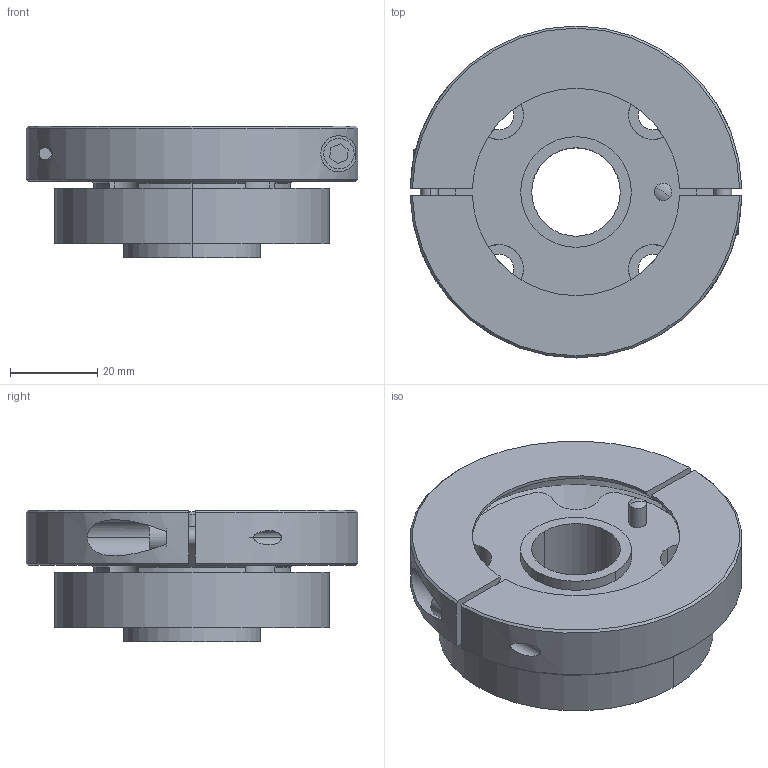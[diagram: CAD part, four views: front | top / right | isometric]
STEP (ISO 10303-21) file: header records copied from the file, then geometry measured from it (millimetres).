
FILE_DESCRIPTION (( 'STEP AP214' ), '1' );
FILE_NAME ('ATI-9005-50-6080.STEP', '2020-10-27T06:16:29', ( '' ), ( '' ), 'SwSTEP 2.0', 'SolidWorks 2020', '' );
FILE_SCHEMA (( 'AUTOMOTIVE_DESIGN' ));
Length unit declared in the file: inch
Products named in the file (1): ATI-9005-50-6080
Bounding box: 76.18 x 76.2 x 30.29 mm (x, y, z)
Volume: 74268.1 mm3; surface area: 26023.9 mm2
Topology: 1 solids, 1 shells, 140 faces, 373 edges, 244 vertices
Faces by surface type: cylinder 76, plane 39, cone 23, sphere 2
Entity records: 4933 total; most frequent: CARTESIAN_POINT 1326, DIRECTION 765, ORIENTED_EDGE 742, EDGE_CURVE 371, AXIS2_PLACEMENT_3D 309, VERTEX_POINT 244, CIRCLE 168, EDGE_LOOP 167
